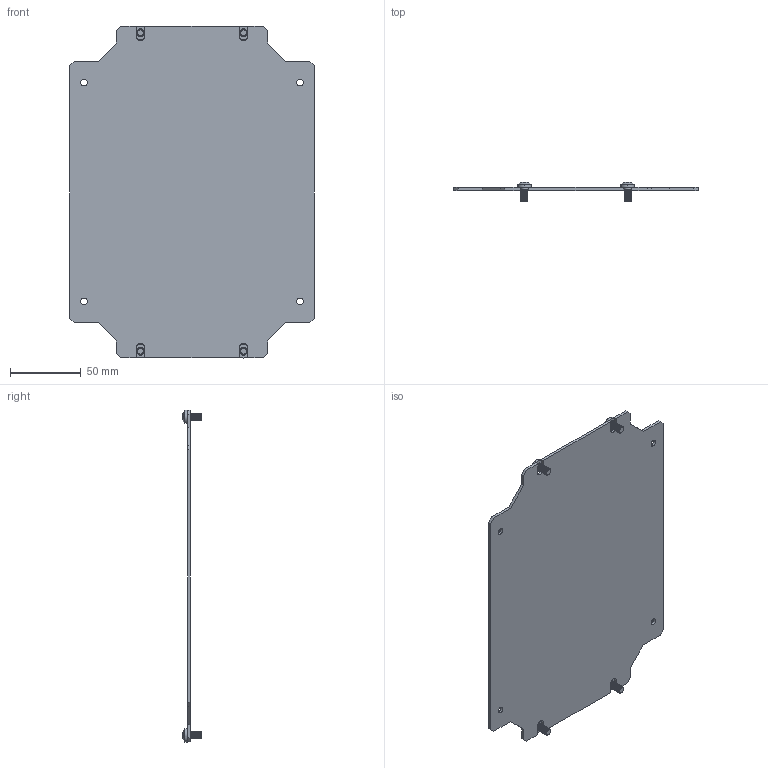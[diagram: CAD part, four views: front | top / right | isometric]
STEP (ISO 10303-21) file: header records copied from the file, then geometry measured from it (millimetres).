
FILE_DESCRIPTION (( 'STEP AP214' ), '1' );
FILE_NAME ('943.225--DM Small 200 W x 250 H Mounting Plate.STEP', '2020-12-03T10:24:18', ( '' ), ( '' ), 'SwSTEP 2.0', 'SolidWorks 2019', '' );
FILE_SCHEMA (( 'AUTOMOTIVE_DESIGN' ));
Length unit declared in the file: millimetre
Products named in the file (8): M5x10; DM Small Montaj Plakasi 2mm; DM Small Montaj Plakasi 2mm_PP 20.0103 - 200x250; M5x10_ISO 7045 - M5 x 10 - Z --- 10C; 943.225--DM Small 200 W x 250 H Mounting Plate
Assembly tree (5 placements, depth 2):
  M5x10
  M5x10
  DM Small Montaj Plakasi 2mm
  M5x10
  M5x10
Bounding box: 173 x 13.63 x 235.12 mm (x, y, z)
Volume: 76171.9 mm3; surface area: 78333.7 mm2
Topology: 5 solids, 5 shells, 460 faces, 1214 edges, 760 vertices
Faces by surface type: cone 208, cylinder 118, plane 110, torus 16, sphere 8
Entity records: 5136 total; most frequent: DIRECTION 922, CARTESIAN_POINT 866, ORIENTED_EDGE 828, EDGE_CURVE 414, AXIS2_PLACEMENT_3D 353, VERTEX_POINT 265, LINE 216, VECTOR 216
